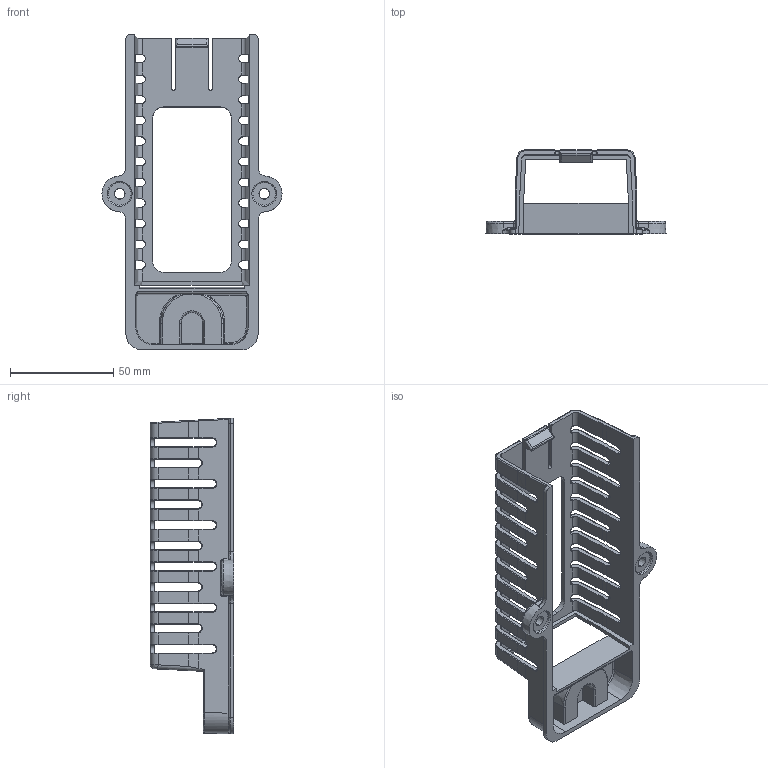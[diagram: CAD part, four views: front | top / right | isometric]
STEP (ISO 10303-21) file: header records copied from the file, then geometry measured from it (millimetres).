
FILE_DESCRIPTION((''),'2;1');
FILE_NAME('0705890','2018-12-10T09:02:40',('jebi'),(''),'CREO PARAMETRIC BY PTC INC, 2017260','CREO PARAMETRIC BY PTC INC, 2017260','');
FILE_SCHEMA(('AUTOMOTIVE_DESIGN { 1 0 10303 214 1 1 1 1 }'));
Products named in the file (1): 0705890
Bounding box: 87.21 x 40.49 x 152.93 mm (x, y, z)
Volume: 37576.8 mm3; surface area: 36607.9 mm2
Topology: 1 solids, 1 shells, 1043 faces, 2593 edges, 1509 vertices
Faces by surface type: cylinder 372, bspline 255, plane 193, torus 168, cone 34, sphere 21
Entity records: 43409 total; most frequent: CARTESIAN_POINT 20110, ORIENTED_EDGE 5186, DIRECTION 4588, EDGE_CURVE 2593, AXIS2_PLACEMENT_3D 1822, VERTEX_POINT 1509, EDGE_LOOP 1052, FACE_OUTER_BOUND 1043
